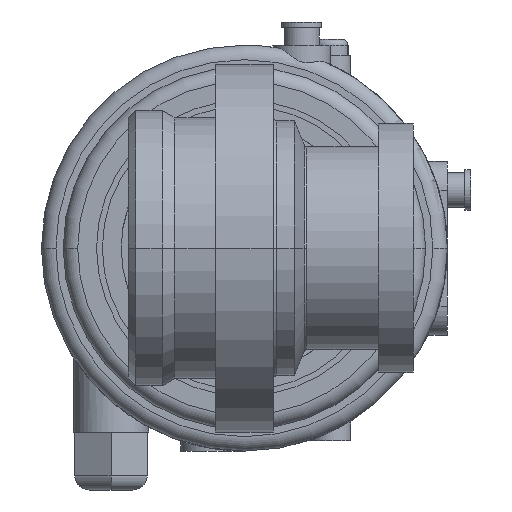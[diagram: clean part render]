
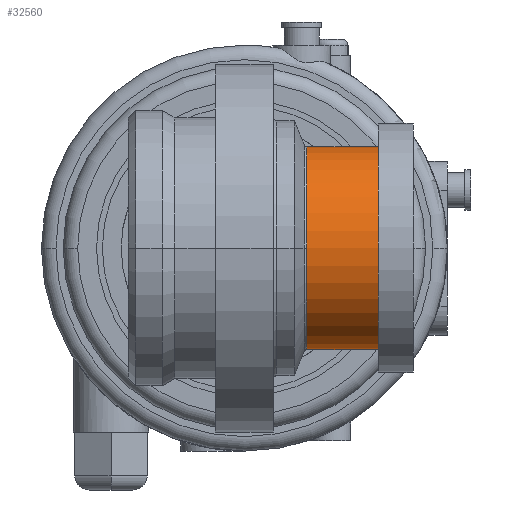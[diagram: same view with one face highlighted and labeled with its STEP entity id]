
A CAD part, front view. The second image highlights one B-rep face of the part: STEP entity #32560.
In plain terms, the highlighted cylindrical face has radius 35 mm (diameter 70 mm), a partial arc.
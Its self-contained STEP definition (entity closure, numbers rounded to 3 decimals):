
#7240=CARTESIAN_POINT('',(-51.926,45.375,0.));
#7250=DIRECTION('',(1.,0.,0.));
#7260=DIRECTION('',(0.,0.,-1.));
#7270=AXIS2_PLACEMENT_3D('',#7240,#7250,#7260);
#7280=CIRCLE('',#7270,35.);
#7290=CARTESIAN_POINT('',(-51.926,45.375,35.));
#7300=VERTEX_POINT('',#7290);
#7310=CARTESIAN_POINT('',(-51.926,45.375,-35.));
#7320=VERTEX_POINT('',#7310);
#7330=EDGE_CURVE('',#7300,#7320,#7280,.T.);
#8160=CARTESIAN_POINT('',(-76.616,45.375,0.));
#8170=DIRECTION('',(-1.,0.,0.));
#8180=DIRECTION('',(0.,1.,0.));
#8190=AXIS2_PLACEMENT_3D('',#8160,#8170,#8180);
#8200=CIRCLE('',#8190,35.);
#8230=CARTESIAN_POINT('',(-76.616,45.375,-35.));
#8240=VERTEX_POINT('',#8230);
#8270=CARTESIAN_POINT('',(-88.126,45.375,-35.));
#8280=DIRECTION('',(1.,0.,0.));
#8290=VECTOR('',#8280,1.);
#8300=LINE('',#8270,#8290);
#8310=EDGE_CURVE('',#8240,#7320,#8300,.T.);
#8340=CARTESIAN_POINT('',(-88.126,45.375,35.));
#8350=DIRECTION('',(1.,0.,0.));
#8360=VECTOR('',#8350,1.);
#8370=LINE('',#8340,#8360);
#8380=CARTESIAN_POINT('',(-76.616,45.375,35.));
#8390=VERTEX_POINT('',#8380);
#8400=EDGE_CURVE('',#8390,#7300,#8370,.T.);
#8520=CARTESIAN_POINT('',(-76.616,10.375,0.));
#8530=VERTEX_POINT('',#8520);
#8540=EDGE_CURVE('',#8530,#8390,#8200,.T.);
#32430=CARTESIAN_POINT('',(-88.126,45.375,0.));
#32440=DIRECTION('',(1.,0.,0.));
#32450=DIRECTION('',(0.,0.,-1.));
#32460=AXIS2_PLACEMENT_3D('',#32430,#32440,#32450);
#32470=CYLINDRICAL_SURFACE('',#32460,35.);
#32480=EDGE_CURVE('',#8240,#8530,#8200,.T.);
#32490=ORIENTED_EDGE('',*,*,#32480,.F.);
#32500=ORIENTED_EDGE('',*,*,#8540,.F.);
#32510=ORIENTED_EDGE('',*,*,#8400,.F.);
#32520=ORIENTED_EDGE('',*,*,#7330,.F.);
#32530=ORIENTED_EDGE('',*,*,#8310,.T.);
#32540=EDGE_LOOP('',(#32530,#32520,#32510,#32500,#32490));
#32550=FACE_OUTER_BOUND('',#32540,.T.);
#32560=ADVANCED_FACE('',(#32550),#32470,.T.);
